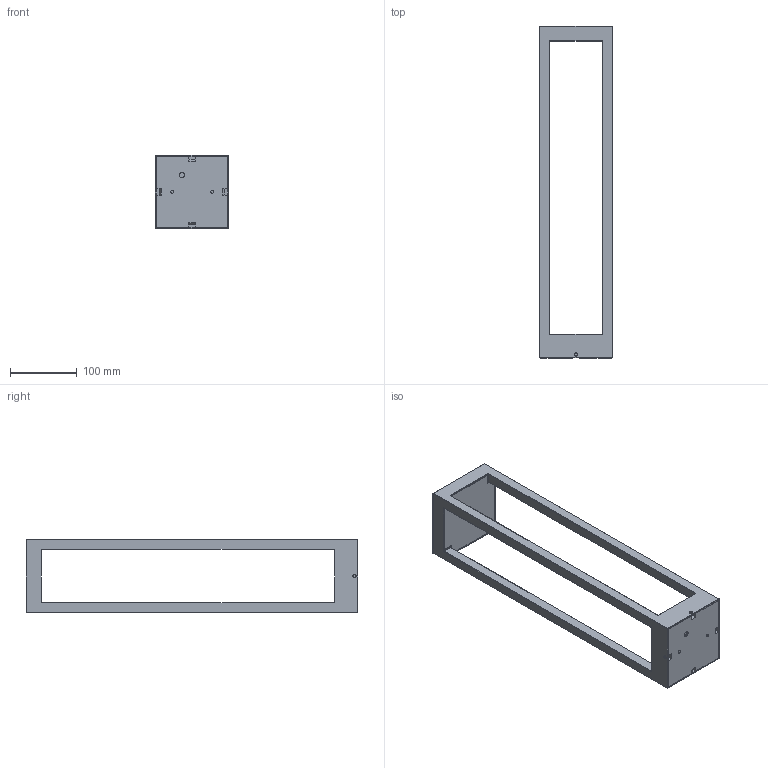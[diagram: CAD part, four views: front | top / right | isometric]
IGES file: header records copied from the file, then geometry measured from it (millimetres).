
Start section: SolidWorks IGES file using analytic representation for surfaces
Global section: file name: F:\GABRYSIA\MODELE 3D\STRUCTURE-LED-8145-WWW\STRUCTURE-LED-8145 .IGS; native system: SolidWorks 2017; preprocessor: SolidWorks 2017; author: Togambi; date: 201202.084859; units: millimetre
Bounding box: 110 x 498.16 x 110 mm (x, y, z)
Surface area: 244885 mm2 (no closed solid volume)
Topology: 0 solids, 0 shells, 201 faces, 1504 edges, 1496 vertices
Faces by surface type: bspline 131, revolution 70
